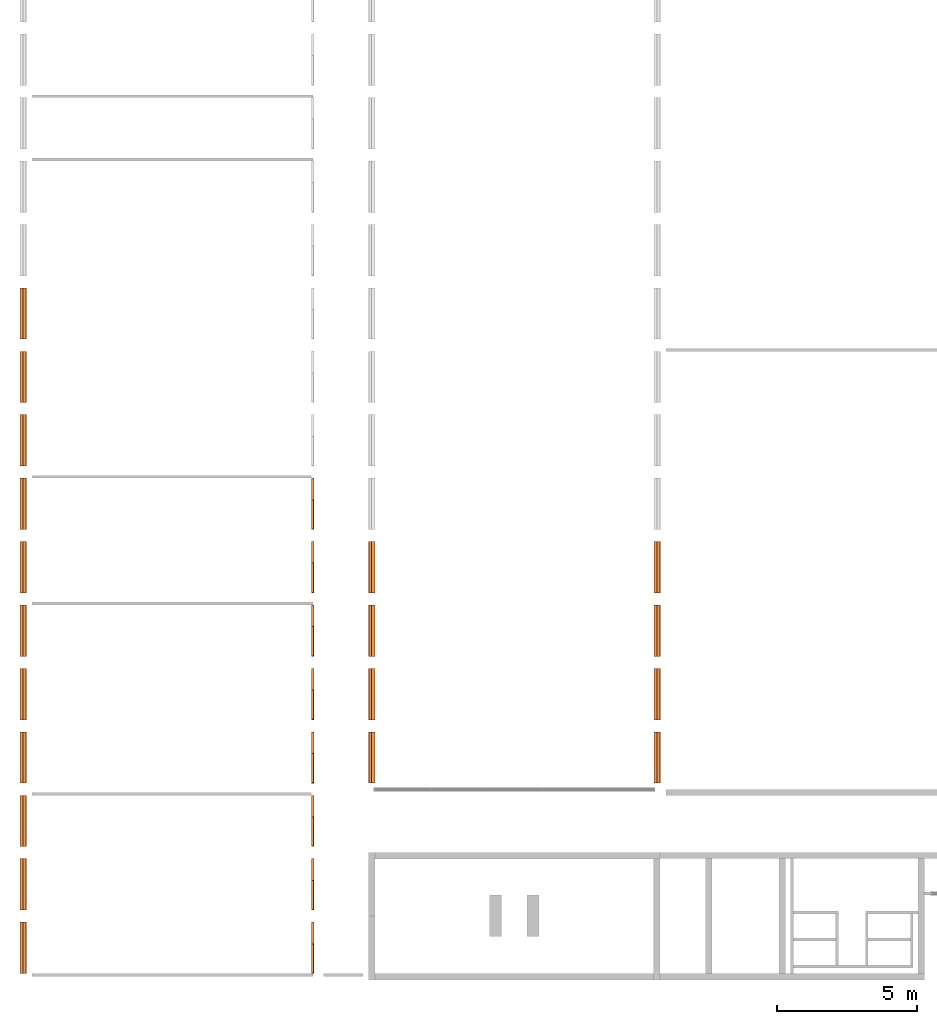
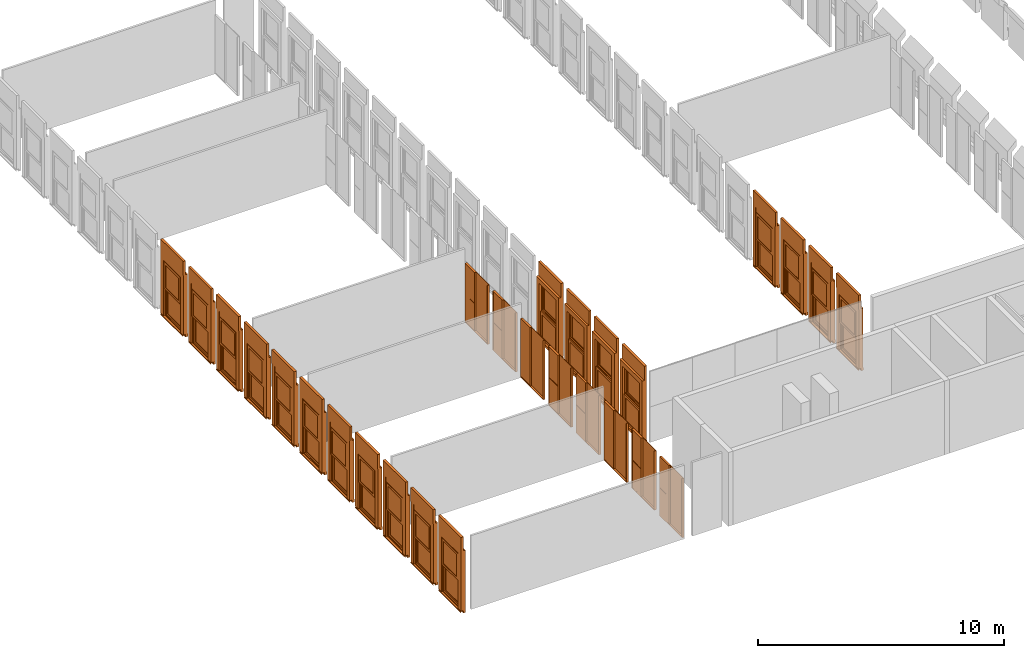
# One storey, part 9 of 16: 27 proxies.
"""IFC2X3 building model written with IfcOpenShell, lengths in millimetres."""

from ifc_helpers import new_model, entity, si_unit, converted_unit, derived_unit, direction, frame, frame_2d, origin, origin_2d_with_axis, place, context, subcontext, project, spatial, polyline, rectangle, outline, extrude, source, transform, mapped, material, material_list, type_object, type_shapes, element, save


model = new_model("IFC2X3")

# Units and contexts
model_context = context("Model", 3, precision=0.01, world=origin(), true_north=direction((6.12303176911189e-17, 1.0)))
body_context = subcontext(model_context, "Body", "Model", "MODEL_VIEW")
ifc_project = project(units=[si_unit("LENGTHUNIT", "METRE", prefix="MILLI"), si_unit("AREAUNIT", "SQUARE_METRE"), si_unit("VOLUMEUNIT", "CUBIC_METRE"), converted_unit("PLANEANGLEUNIT", "DEGREE", entity("IfcRatioMeasure", 0.0174532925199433), si_unit("PLANEANGLEUNIT", "RADIAN"), dimensions=[0, 0, 0, 0, 0, 0, 0]), si_unit("MASSUNIT", "GRAM", prefix="KILO"), derived_unit("MASSDENSITYUNIT", [(si_unit("MASSUNIT", "GRAM", prefix="KILO"), 1), (si_unit("LENGTHUNIT", "METRE"), -3)]), derived_unit("MOMENTOFINERTIAUNIT", [(si_unit("LENGTHUNIT", "METRE"), 4)]), si_unit("TIMEUNIT", "SECOND"), si_unit("FREQUENCYUNIT", "HERTZ"), si_unit("THERMODYNAMICTEMPERATUREUNIT", "DEGREE_CELSIUS"), derived_unit("THERMALTRANSMITTANCEUNIT", [(si_unit("MASSUNIT", "GRAM", prefix="KILO"), 1), (si_unit("THERMODYNAMICTEMPERATUREUNIT", "KELVIN"), -1), (si_unit("TIMEUNIT", "SECOND"), -3)]), derived_unit("VOLUMETRICFLOWRATEUNIT", [(si_unit("LENGTHUNIT", "METRE"), 3), (si_unit("TIMEUNIT", "SECOND"), -1)]), si_unit("ELECTRICCURRENTUNIT", "AMPERE"), si_unit("ELECTRICVOLTAGEUNIT", "VOLT"), si_unit("POWERUNIT", "WATT"), si_unit("FORCEUNIT", "NEWTON", prefix="KILO"), si_unit("ILLUMINANCEUNIT", "LUX"), si_unit("LUMINOUSFLUXUNIT", "LUMEN"), si_unit("LUMINOUSINTENSITYUNIT", "CANDELA"), derived_unit("USERDEFINED", [(si_unit("MASSUNIT", "GRAM", prefix="KILO"), -1), (si_unit("LENGTHUNIT", "METRE"), -2), (si_unit("TIMEUNIT", "SECOND"), 3), (si_unit("LUMINOUSFLUXUNIT", "LUMEN"), 1)]), derived_unit("LINEARVELOCITYUNIT", [(si_unit("LENGTHUNIT", "METRE"), 1), (si_unit("TIMEUNIT", "SECOND"), -1)]), si_unit("PRESSUREUNIT", "PASCAL"), derived_unit("USERDEFINED", [(si_unit("LENGTHUNIT", "METRE"), -2), (si_unit("MASSUNIT", "GRAM", prefix="KILO"), 1), (si_unit("TIMEUNIT", "SECOND"), -2)]), derived_unit("LINEARFORCEUNIT", [(si_unit("MASSUNIT", "GRAM", prefix="KILO"), 1), (si_unit("LENGTHUNIT", "METRE"), 1), (si_unit("TIMEUNIT", "SECOND"), -2), (si_unit("LENGTHUNIT", "METRE"), -1)]), derived_unit("PLANARFORCEUNIT", [(si_unit("MASSUNIT", "GRAM", prefix="KILO"), 1), (si_unit("LENGTHUNIT", "METRE"), 1), (si_unit("TIMEUNIT", "SECOND"), -2), (si_unit("LENGTHUNIT", "METRE"), -2)])], contexts=[model_context])

# Site, building, storey
site_placement = place(None, frame((10627.5135316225, 21939.0796949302, 0.0)))
site = spatial("IfcSite", under=ifc_project, at=site_placement, Name="Default", CompositionType="ELEMENT")
building_placement = place(site_placement, origin())
building = spatial("IfcBuilding", under=site, at=building_placement, CompositionType="ELEMENT")
storey_placement = place(building_placement, frame((0.0, 0.0, 3660.0)))
storey = spatial("IfcBuildingStorey", under=building, at=storey_placement, Name="R+1", CompositionType="ELEMENT", Elevation=3660.0)

# Proxies
ifc_material_1 = material(Name="PVC, Flexible")
ifc_material_2 = material(Name="Glass")
ifc_material_list_1 = material_list([ifc_material_1, ifc_material_2])
building_element_proxy_type_1 = type_object("IfcBuildingElementProxyType", Name="FENETRE.dwg:Fenetre ext 296+70", PredefinedType="NOTDEFINED", material=ifc_material_1)
shared_shape_1 = source(origin(), body_context, "Body", "SweptSolid", [
    extrude(rectangle(XDim=1829.99999999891, YDim=112.500043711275, at=origin_2d_with_axis()), frame((-10.4189092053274, 56.2500218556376, 2960.0), z_axis=(0.0, 0.0, 1.0), x_axis=(-1.0, 0.0, 0.0)), (0.0, 0.0, 1.0), 700.0),
    extrude(outline(polyline([(-68.5678005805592, -14.3879872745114), (-72.4883397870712, -33.9999574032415), (-67.5853472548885, -34.9800922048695), (-63.9024543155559, -16.5569155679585), (44.3087537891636, -16.5569155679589), (54.1101018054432, 32.4730097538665), (40.6268723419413, 35.1683804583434), (40.1368049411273, 32.7168841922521), (51.168538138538, 30.5115808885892), (42.1928709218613, -14.3879872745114), (-68.5678005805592, -14.3879872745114)])), frame((-925.418909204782, 66.917049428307, -47.5499763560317), z_axis=(-1.0, 0.0, 0.0), x_axis=(0.0, 0.980598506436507, -0.196026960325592)), (0.0, 0.0, -1.0), 1829.99999999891),
    extrude(outline(polyline([(-64.667066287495, -56.2500218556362), (66.1666874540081, -56.2500218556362), (66.1666874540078, 56.2500218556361), (-67.6663086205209, 56.2500218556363), (-64.667066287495, -56.2500218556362)])), frame((-925.418909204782, -56.2500218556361, -63.833312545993), z_axis=(1.0, 0.0, 0.0), x_axis=(0.0, 0.0, -1.0)), (0.0, 0.0, 1.0), 1829.99999999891),
    extrude(outline(polyline([(-55.5555555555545, 97.0007159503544), (-55.5555555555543, -5.85738417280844), (-55.5555555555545, -95.357341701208), (-45.5555555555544, -95.3573417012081), (-45.5555555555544, -105.357341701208), (174.444444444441, -105.357341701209), (174.444444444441, 106.642659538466), (-45.5555555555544, 106.642659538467), (-45.5555555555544, 97.0007159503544), (-55.5555555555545, 97.0007159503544)])), frame((849.025535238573, 5.85738417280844, 0.0), z_axis=(0.0, 0.0, -1.0), x_axis=(-1.0, 0.0, 0.0)), (0.0, 0.0, -1.0), 2960.0),
    extrude(rectangle(XDim=199.499957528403, YDim=1369.99999999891, at=origin_2d_with_axis()), frame((-10.4189092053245, 0.250021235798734, 2730.0), z_axis=(0.0, 0.0, 1.0), x_axis=(0.0, 1.0, 0.0)), (0.0, 0.0, 1.0), 230.000000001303),
    extrude(outline(polyline([(-97.0007159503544, -55.5555555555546), (5.85738417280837, -55.5555555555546), (95.357341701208, -55.5555555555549), (95.357341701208, -45.5555555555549), (105.357341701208, -45.5555555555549), (105.357341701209, 174.44444444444), (-106.642659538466, 174.444444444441), (-106.642659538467, -45.5555555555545), (-97.0007159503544, -45.5555555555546), (-97.0007159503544, -55.5555555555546)])), frame((-869.863353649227, 5.85738417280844, 0.0), z_axis=(0.0, 0.0, 1.0), x_axis=(0.0, -1.0, 0.0)), (0.0, 0.0, 1.0), 2960.0),
    extrude(rectangle(XDim=1.0, YDim=1079.99999999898, at=origin_2d_with_axis()), frame((-10.4189092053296, -19.5, 130.0), z_axis=(0.0, 0.0, 1.0), x_axis=(0.0, 1.0, 0.0)), (0.0, 0.0, 1.0), 1120.00000000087),
    extrude(rectangle(XDim=1.0, YDim=1079.99999999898, at=frame_2d((-4.21884749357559e-15, 0.0), x_axis=(1.0, 0.0))), frame((-10.4189092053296, -30.5, 130.0), z_axis=(0.0, 0.0, 1.0), x_axis=(0.0, 1.0, 0.0)), (0.0, 0.0, 1.0), 1120.00000000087),
    extrude(rectangle(XDim=1.0, YDim=1079.99999999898, at=frame_2d((-4.21884749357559e-15, 0.0), x_axis=(1.0, 0.0))), frame((-10.4189092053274, 69.5, 1465.0), z_axis=(0.0, 0.0, 1.0), x_axis=(0.0, 1.0, 0.0)), (0.0, 0.0, 1.0), 1120.0),
    extrude(rectangle(XDim=0.999999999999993, YDim=1079.99999999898, at=frame_2d((-8.46545056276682e-15, 0.0), x_axis=(1.0, 0.0))), frame((-10.4189092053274, 80.5, 1465.0), z_axis=(0.0, 0.0, 1.0), x_axis=(0.0, 1.0, 0.0)), (0.0, 0.0, 1.0), 1120.00000000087),
    extrude(outline(polyline([(-685.0, -1365.0), (0.0, -1365.0), (685.0, -1365.0), (685.0, 1365.0), (0.0, 1365.0), (-685.0, 1365.0), (-685.0, -1365.0)]), holes=[polyline([(-640.0, -1320.0), (-640.0, -45.0), (0.0, -45.0), (640.0, -45.0), (640.0, -1320.0), (0.0, -1320.0), (-640.0, -1320.0)]), polyline([(-640.0, 40.0), (-640.0, 1315.0), (0.0, 1315.0), (640.0, 1315.0), (640.0, 40.0), (0.0, 40.0), (-640.0, 40.0)])]), frame((-10.4189092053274, 0.0, 1365.0), z_axis=(0.0, 1.0, 0.0), x_axis=(1.0, 0.0, 0.0)), (0.0, 0.0, 1.0), 50.0),
    extrude(outline(polyline([(-655.0, -667.500000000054), (655.0, -667.500000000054), (655.0, 667.500000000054), (-655.0, 667.500000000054), (-655.0, -667.500000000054)]), holes=[polyline([(-540.0, 552.500000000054), (540.0, 552.500000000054), (540.0, -567.500000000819), (-540.0, -567.500000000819), (-540.0, 552.500000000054)])]), frame((-10.4189092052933, -50.0, 697.500000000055), z_axis=(0.0, 1.0, 0.0), x_axis=(-1.0, 0.0, 0.0)), (0.0, 0.0, 1.0), 50.0),
    extrude(outline(polyline([(-655.0, -667.500000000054), (655.0, -667.500000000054), (655.0, 667.500000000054), (-655.0, 667.500000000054), (-655.0, -667.500000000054)]), holes=[polyline([(-540.0, 552.500000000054), (540.0, 552.500000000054), (540.0, -567.500000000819), (-540.0, -567.500000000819), (-540.0, 552.500000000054)])]), frame((-10.4189092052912, 50.0, 2032.50000000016), z_axis=(0.0, 1.0, 0.0), x_axis=(-1.0, 0.0, 0.0)), (0.0, 0.0, 1.0), 50.0),
])
type_shapes(building_element_proxy_type_1, [shared_shape_1])
proxy_1_placement = place(storey_placement, frame((-10728.9017825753, 1801.33921427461, 0.0), z_axis=(0.0, 0.0, 1.0), x_axis=(0.0, 1.0, 0.0)))
element("IfcBuildingElementProxy", 1, at=proxy_1_placement, inside=storey, type_object=building_element_proxy_type_1, material=ifc_material_list_1, Name="FENETRE.dwg:Fenetre ext 296+70", ObjectType="FENETRE.dwg:Fenetre ext 296+70", context=body_context, shape_type="MappedRepresentation", body=[
    mapped(shared_shape_1, transform((0.0, 0.0, 0.0), scale=1.0)),
])
ifc_material_list_2 = material_list([ifc_material_1, ifc_material_2])
proxy_2_placement = place(storey_placement, frame((-10728.9017825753, -458.660785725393, 0.0), z_axis=(0.0, 0.0, 1.0), x_axis=(0.0, 1.0, 0.0)))
element("IfcBuildingElementProxy", 2, at=proxy_2_placement, inside=storey, type_object=building_element_proxy_type_1, material=ifc_material_list_2, Name="FENETRE.dwg:Fenetre ext 296+70", ObjectType="FENETRE.dwg:Fenetre ext 296+70", context=body_context, shape_type="MappedRepresentation", body=[
    mapped(shared_shape_1, transform((0.0, 0.0, 0.0), scale=1.0)),
])
ifc_material_list_3 = material_list([ifc_material_1, ifc_material_2])
proxy_3_placement = place(storey_placement, frame((-10728.9017825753, -2718.66078572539, 0.0), z_axis=(0.0, 0.0, 1.0), x_axis=(0.0, 1.0, 0.0)))
element("IfcBuildingElementProxy", 3, at=proxy_3_placement, inside=storey, type_object=building_element_proxy_type_1, material=ifc_material_list_3, Name="FENETRE.dwg:Fenetre ext 296+70", ObjectType="FENETRE.dwg:Fenetre ext 296+70", context=body_context, shape_type="MappedRepresentation", body=[
    mapped(shared_shape_1, transform((0.0, 0.0, 0.0), scale=1.0)),
])
ifc_material_list_4 = material_list([ifc_material_1, ifc_material_2])
proxy_4_placement = place(storey_placement, frame((-10728.9017825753, -4978.6607857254, 0.0), z_axis=(0.0, 0.0, 1.0), x_axis=(0.0, 1.0, 0.0)))
element("IfcBuildingElementProxy", 4, at=proxy_4_placement, inside=storey, type_object=building_element_proxy_type_1, material=ifc_material_list_4, Name="FENETRE.dwg:Fenetre ext 296+70", ObjectType="FENETRE.dwg:Fenetre ext 296+70", context=body_context, shape_type="MappedRepresentation", body=[
    mapped(shared_shape_1, transform((0.0, 0.0, 0.0), scale=1.0)),
])
ifc_material_list_5 = material_list([ifc_material_1, ifc_material_2])
proxy_5_placement = place(storey_placement, frame((-10728.9017825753, -7238.6607857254, 0.0), z_axis=(0.0, 0.0, 1.0), x_axis=(0.0, 1.0, 0.0)))
element("IfcBuildingElementProxy", 5, at=proxy_5_placement, inside=storey, type_object=building_element_proxy_type_1, material=ifc_material_list_5, Name="FENETRE.dwg:Fenetre ext 296+70", ObjectType="FENETRE.dwg:Fenetre ext 296+70", context=body_context, shape_type="MappedRepresentation", body=[
    mapped(shared_shape_1, transform((0.0, 0.0, 0.0), scale=1.0)),
])
ifc_material_list_6 = material_list([ifc_material_1, ifc_material_2])
proxy_6_placement = place(storey_placement, frame((-10728.9017825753, -9498.6607857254, 0.0), z_axis=(0.0, 0.0, 1.0), x_axis=(0.0, 1.0, 0.0)))
element("IfcBuildingElementProxy", 6, at=proxy_6_placement, inside=storey, type_object=building_element_proxy_type_1, material=ifc_material_list_6, Name="FENETRE.dwg:Fenetre ext 296+70", ObjectType="FENETRE.dwg:Fenetre ext 296+70", context=body_context, shape_type="MappedRepresentation", body=[
    mapped(shared_shape_1, transform((0.0, 0.0, 0.0), scale=1.0)),
])
ifc_material_list_7 = material_list([ifc_material_1, ifc_material_2])
proxy_7_placement = place(storey_placement, frame((-10728.9017825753, -11758.6607857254, 0.0), z_axis=(0.0, 0.0, 1.0), x_axis=(0.0, 1.0, 0.0)))
element("IfcBuildingElementProxy", 7, at=proxy_7_placement, inside=storey, type_object=building_element_proxy_type_1, material=ifc_material_list_7, Name="FENETRE.dwg:Fenetre ext 296+70", ObjectType="FENETRE.dwg:Fenetre ext 296+70", context=body_context, shape_type="MappedRepresentation", body=[
    mapped(shared_shape_1, transform((0.0, 0.0, 0.0), scale=1.0)),
])
ifc_material_list_8 = material_list([ifc_material_1, ifc_material_2])
proxy_8_placement = place(storey_placement, frame((-10728.9017825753, -14018.6607857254, 0.0), z_axis=(0.0, 0.0, 1.0), x_axis=(0.0, 1.0, 0.0)))
element("IfcBuildingElementProxy", 8, at=proxy_8_placement, inside=storey, type_object=building_element_proxy_type_1, material=ifc_material_list_8, Name="FENETRE.dwg:Fenetre ext 296+70", ObjectType="FENETRE.dwg:Fenetre ext 296+70", context=body_context, shape_type="MappedRepresentation", body=[
    mapped(shared_shape_1, transform((0.0, 0.0, 0.0), scale=1.0)),
])
ifc_material_list_9 = material_list([ifc_material_1, ifc_material_2])
proxy_9_placement = place(storey_placement, frame((-10728.9017825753, -16278.6607857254, 0.0), z_axis=(0.0, 0.0, 1.0), x_axis=(0.0, 1.0, 0.0)))
element("IfcBuildingElementProxy", 9, at=proxy_9_placement, inside=storey, type_object=building_element_proxy_type_1, material=ifc_material_list_9, Name="FENETRE.dwg:Fenetre ext 296+70", ObjectType="FENETRE.dwg:Fenetre ext 296+70", context=body_context, shape_type="MappedRepresentation", body=[
    mapped(shared_shape_1, transform((0.0, 0.0, 0.0), scale=1.0)),
])
ifc_material_list_10 = material_list([ifc_material_1, ifc_material_2])
proxy_10_placement = place(storey_placement, frame((-10728.9017825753, -18538.6607857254, 0.0), z_axis=(0.0, 0.0, 1.0), x_axis=(0.0, 1.0, 0.0)))
element("IfcBuildingElementProxy", 10, at=proxy_10_placement, inside=storey, type_object=building_element_proxy_type_1, material=ifc_material_list_10, Name="FENETRE.dwg:Fenetre ext 296+70", ObjectType="FENETRE.dwg:Fenetre ext 296+70", context=body_context, shape_type="MappedRepresentation", body=[
    mapped(shared_shape_1, transform((0.0, 0.0, 0.0), scale=1.0)),
])
ifc_material_list_11 = material_list([ifc_material_1, ifc_material_2])
proxy_11_placement = place(storey_placement, frame((-10728.9017825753, -20798.6607857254, 0.0), z_axis=(0.0, 0.0, 1.0), x_axis=(0.0, 1.0, 0.0)))
element("IfcBuildingElementProxy", 11, at=proxy_11_placement, inside=storey, type_object=building_element_proxy_type_1, material=ifc_material_list_11, Name="FENETRE.dwg:Fenetre ext 296+70", ObjectType="FENETRE.dwg:Fenetre ext 296+70", context=body_context, shape_type="MappedRepresentation", body=[
    mapped(shared_shape_1, transform((0.0, 0.0, 0.0), scale=1.0)),
])
ifc_material_list_12 = material_list([ifc_material_1, ifc_material_2])
proxy_12_placement = place(storey_placement, frame((11860.9034578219, -7238.66078572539, 0.0), z_axis=(0.0, 0.0, 1.0), x_axis=(0.0, 1.0, 0.0)))
element("IfcBuildingElementProxy", 12, at=proxy_12_placement, inside=storey, type_object=building_element_proxy_type_1, material=ifc_material_list_12, Name="FENETRE.dwg:Fenetre ext 296+70", ObjectType="FENETRE.dwg:Fenetre ext 296+70", context=body_context, shape_type="MappedRepresentation", body=[
    mapped(shared_shape_1, transform((0.0, 0.0, 0.0), scale=1.0)),
])
ifc_material_list_13 = material_list([ifc_material_1, ifc_material_2])
proxy_13_placement = place(storey_placement, frame((11860.9034578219, -9498.66078572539, 0.0), z_axis=(0.0, 0.0, 1.0), x_axis=(0.0, 1.0, 0.0)))
element("IfcBuildingElementProxy", 13, at=proxy_13_placement, inside=storey, type_object=building_element_proxy_type_1, material=ifc_material_list_13, Name="FENETRE.dwg:Fenetre ext 296+70", ObjectType="FENETRE.dwg:Fenetre ext 296+70", context=body_context, shape_type="MappedRepresentation", body=[
    mapped(shared_shape_1, transform((0.0, 0.0, 0.0), scale=1.0)),
])
ifc_material_list_14 = material_list([ifc_material_1, ifc_material_2])
proxy_14_placement = place(storey_placement, frame((11860.9034578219, -11758.6607857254, 0.0), z_axis=(0.0, 0.0, 1.0), x_axis=(0.0, 1.0, 0.0)))
element("IfcBuildingElementProxy", 14, at=proxy_14_placement, inside=storey, type_object=building_element_proxy_type_1, material=ifc_material_list_14, Name="FENETRE.dwg:Fenetre ext 296+70", ObjectType="FENETRE.dwg:Fenetre ext 296+70", context=body_context, shape_type="MappedRepresentation", body=[
    mapped(shared_shape_1, transform((0.0, 0.0, 0.0), scale=1.0)),
])
ifc_material_list_15 = material_list([ifc_material_1, ifc_material_2])
proxy_15_placement = place(storey_placement, frame((11860.9034578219, -14018.6607857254, 0.0), z_axis=(0.0, 0.0, 1.0), x_axis=(0.0, 1.0, 0.0)))
element("IfcBuildingElementProxy", 15, at=proxy_15_placement, inside=storey, type_object=building_element_proxy_type_1, material=ifc_material_list_15, Name="FENETRE.dwg:Fenetre ext 296+70", ObjectType="FENETRE.dwg:Fenetre ext 296+70", context=body_context, shape_type="MappedRepresentation", body=[
    mapped(shared_shape_1, transform((0.0, 0.0, 0.0), scale=1.0)),
])
ifc_material_list_16 = material_list([ifc_material_1, ifc_material_2])
building_element_proxy_type_2 = type_object("IfcBuildingElementProxyType", Name="FENETRE.dwg:Fenetre ext 296+70", PredefinedType="NOTDEFINED", material=ifc_material_1)
shared_shape_2 = source(origin(), body_context, "Body", "SweptSolid", [
    extrude(rectangle(XDim=112.500043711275, YDim=1829.99999999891, at=origin_2d_with_axis()), frame((-10.4189092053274, -56.2500218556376, 2960.0), z_axis=(0.0, 0.0, 1.0), x_axis=(0.0, 1.0, 0.0)), (0.0, 0.0, 1.0), 700.0),
    extrude(outline(polyline([(27.5499763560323, -64.4170494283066), (47.5499763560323, -64.4170494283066), (47.5499763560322, -59.4170494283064), (28.7622905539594, -59.4170494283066), (7.54997635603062, 46.6946996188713), (-42.4500236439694, 46.6946996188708), (-42.4500236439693, 32.9446996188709), (-39.9500236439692, 32.9446996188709), (-39.9500236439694, 44.1946996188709), (5.83789859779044, 44.1946996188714), (27.5499763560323, -64.4170494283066)])), frame((-925.418909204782, -66.917049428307, -47.5499763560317), z_axis=(1.0, 0.0, 0.0), x_axis=(0.0, 0.0, 1.0)), (0.0, 0.0, 1.0), 1829.99999999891),
    extrude(outline(polyline([(-54.506636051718, -66.1431859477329), (58.0333803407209, -66.1431859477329), (54.4666704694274, 67.6422744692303), (-57.9934147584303, 64.6440974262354), (-54.506636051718, -66.1431859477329)])), frame((-925.418909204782, 56.2500218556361, -63.833312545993), z_axis=(1.0, 0.0, 0.0), x_axis=(0.0, -0.999644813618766, 0.0266504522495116)), (0.0, 0.0, 1.0), 1829.99999999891),
    extrude(outline(polyline([(-97.0007159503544, -55.5555555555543), (5.85738417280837, -55.5555555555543), (95.357341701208, -55.5555555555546), (95.357341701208, -45.5555555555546), (105.357341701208, -45.5555555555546), (105.357341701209, 174.444444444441), (-106.642659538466, 174.444444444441), (-106.642659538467, -45.5555555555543), (-97.0007159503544, -45.5555555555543), (-97.0007159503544, -55.5555555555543)])), frame((849.025535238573, -5.85738417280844, 0.0), z_axis=(0.0, 0.0, 1.0), x_axis=(0.0, 1.0, 0.0)), (0.0, 0.0, 1.0), 2960.0),
    extrude(rectangle(XDim=1369.99999999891, YDim=199.499957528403, at=origin_2d_with_axis()), frame((-10.4189092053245, -0.250021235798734, 2730.0), z_axis=(0.0, 0.0, 1.0), x_axis=(-1.0, 0.0, 0.0)), (0.0, 0.0, 1.0), 230.000000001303),
    extrude(outline(polyline([(-55.5555555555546, 97.0007159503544), (-55.5555555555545, -5.85738417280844), (-55.5555555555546, -95.357341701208), (-45.5555555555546, -95.3573417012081), (-45.5555555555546, -105.357341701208), (174.444444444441, -105.357341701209), (174.444444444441, 106.642659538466), (-45.5555555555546, 106.642659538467), (-45.5555555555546, 97.0007159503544), (-55.5555555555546, 97.0007159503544)])), frame((-869.863353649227, -5.85738417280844, 0.0), z_axis=(0.0, 0.0, -1.0), x_axis=(1.0, 0.0, 0.0)), (0.0, 0.0, -1.0), 2960.0),
    extrude(rectangle(XDim=1079.99999999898, YDim=1.0, at=origin_2d_with_axis()), frame((-10.4189092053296, 19.5, 130.0), z_axis=(0.0, 0.0, 1.0), x_axis=(-1.0, 0.0, 0.0)), (0.0, 0.0, 1.0), 1120.00000000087),
    extrude(rectangle(XDim=1079.99999999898, YDim=1.0, at=origin_2d_with_axis()), frame((-10.4189092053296, 30.5, 130.0), z_axis=(0.0, 0.0, 1.0), x_axis=(-1.0, 0.0, 0.0)), (0.0, 0.0, 1.0), 1120.00000000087),
    extrude(rectangle(XDim=1079.99999999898, YDim=1.0, at=frame_2d((0.0, 4.21884749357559e-15), x_axis=(1.0, 0.0))), frame((-10.4189092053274, -69.5, 1465.0), z_axis=(0.0, 0.0, 1.0), x_axis=(-1.0, 0.0, 0.0)), (0.0, 0.0, 1.0), 1120.0),
    extrude(rectangle(XDim=1079.99999999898, YDim=0.999999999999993, at=frame_2d((0.0, -8.46545056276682e-15), x_axis=(1.0, 0.0))), frame((-10.4189092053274, -80.5, 1465.0), z_axis=(0.0, 0.0, 1.0), x_axis=(-1.0, 0.0, 0.0)), (0.0, 0.0, 1.0), 1120.00000000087),
    extrude(outline(polyline([(-685.0, -1365.0), (0.0, -1365.0), (685.0, -1365.0), (685.0, 1365.0), (0.0, 1365.0), (-685.0, 1365.0), (-685.0, -1365.0)]), holes=[polyline([(-640.0, -1320.0), (-640.0, -45.0), (0.0, -45.0), (640.0, -45.0), (640.0, -1320.0), (0.0, -1320.0), (-640.0, -1320.0)]), polyline([(-640.0, 40.0), (-640.0, 1315.0), (0.0, 1315.0), (640.0, 1315.0), (640.0, 40.0), (0.0, 40.0), (-640.0, 40.0)])]), frame((-10.4189092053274, -50.0, 1365.0), z_axis=(0.0, 1.0, 0.0), x_axis=(1.0, 0.0, 0.0)), (0.0, 0.0, 1.0), 50.0),
    extrude(outline(polyline([(-655.0, -667.500000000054), (655.0, -667.500000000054), (655.0, 667.500000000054), (-655.0, 667.500000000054), (-655.0, -667.500000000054)]), holes=[polyline([(-540.0, 552.500000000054), (540.0, 552.500000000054), (540.0, -567.500000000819), (-540.0, -567.500000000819), (-540.0, 552.500000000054)])]), frame((-10.4189092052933, 0.0, 697.500000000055), z_axis=(0.0, 1.0, 0.0), x_axis=(-1.0, 0.0, 0.0)), (0.0, 0.0, 1.0), 50.0),
    extrude(outline(polyline([(-655.0, -667.500000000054), (655.0, -667.500000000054), (655.0, 667.500000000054), (-655.0, 667.500000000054), (-655.0, -667.500000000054)]), holes=[polyline([(-540.0, 552.500000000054), (540.0, 552.500000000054), (540.0, -567.500000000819), (-540.0, -567.500000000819), (-540.0, 552.500000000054)])]), frame((-10.4189092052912, -100.0, 2032.50000000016), z_axis=(0.0, 1.0, 0.0), x_axis=(-1.0, 0.0, 0.0)), (0.0, 0.0, 1.0), 50.0),
])
type_shapes(building_element_proxy_type_2, [shared_shape_2])
proxy_16_placement = place(storey_placement, frame((1684.98642466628, -7238.66078572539, 0.0), z_axis=(0.0, 0.0, 1.0), x_axis=(0.0, 1.0, 0.0)))
element("IfcBuildingElementProxy", 16, at=proxy_16_placement, inside=storey, type_object=building_element_proxy_type_2, material=ifc_material_list_16, Name="FENETRE.dwg:Fenetre ext 296+70", ObjectType="FENETRE.dwg:Fenetre ext 296+70", context=body_context, shape_type="MappedRepresentation", body=[
    mapped(shared_shape_2, transform((0.0, 0.0, 0.0), scale=1.0)),
])
ifc_material_list_17 = material_list([ifc_material_1, ifc_material_2])
proxy_17_placement = place(storey_placement, frame((1684.98642466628, -9498.66078572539, 0.0), z_axis=(0.0, 0.0, 1.0), x_axis=(0.0, 1.0, 0.0)))
element("IfcBuildingElementProxy", 17, at=proxy_17_placement, inside=storey, type_object=building_element_proxy_type_2, material=ifc_material_list_17, Name="FENETRE.dwg:Fenetre ext 296+70", ObjectType="FENETRE.dwg:Fenetre ext 296+70", context=body_context, shape_type="MappedRepresentation", body=[
    mapped(shared_shape_2, transform((0.0, 0.0, 0.0), scale=1.0)),
])
ifc_material_list_18 = material_list([ifc_material_1, ifc_material_2])
proxy_18_placement = place(storey_placement, frame((1684.98642466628, -11758.6607857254, 0.0), z_axis=(0.0, 0.0, 1.0), x_axis=(0.0, 1.0, 0.0)))
element("IfcBuildingElementProxy", 18, at=proxy_18_placement, inside=storey, type_object=building_element_proxy_type_2, material=ifc_material_list_18, Name="FENETRE.dwg:Fenetre ext 296+70", ObjectType="FENETRE.dwg:Fenetre ext 296+70", context=body_context, shape_type="MappedRepresentation", body=[
    mapped(shared_shape_2, transform((0.0, 0.0, 0.0), scale=1.0)),
])
ifc_material_list_19 = material_list([ifc_material_1, ifc_material_2])
proxy_19_placement = place(storey_placement, frame((1684.98642466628, -14018.6607857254, 0.0), z_axis=(0.0, 0.0, 1.0), x_axis=(0.0, 1.0, 0.0)))
element("IfcBuildingElementProxy", 19, at=proxy_19_placement, inside=storey, type_object=building_element_proxy_type_2, material=ifc_material_list_19, Name="FENETRE.dwg:Fenetre ext 296+70", ObjectType="FENETRE.dwg:Fenetre ext 296+70", context=body_context, shape_type="MappedRepresentation", body=[
    mapped(shared_shape_2, transform((0.0, 0.0, 0.0), scale=1.0)),
])
ifc_material_3 = material(Name="Plywood, Sheathing")
ifc_material_list_20 = material_list([ifc_material_3, ifc_material_2])
building_element_proxy_type_3 = type_object("IfcBuildingElementProxyType", Name="Porte noire:Porte noire", PredefinedType="NOTDEFINED", material=ifc_material_3)
shared_shape_3 = source(origin(), body_context, "Body", "SweptSolid", [
    extrude(rectangle(XDim=100.0, YDim=23.0000000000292, at=origin_2d_with_axis()), frame((-950.918997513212, -50.0, 8.73189890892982), z_axis=(0.0, 0.0, 1.0), x_axis=(0.0, 1.0, 0.0)), (0.0, 0.0, 1.0), 2933.34951039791),
    extrude(rectangle(XDim=19.0, YDim=1038.0, at=frame_2d((7.99360577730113e-15, 0.0), x_axis=(1.0, 0.0))), frame((-420.418997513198, -87.5, 43.7318989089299), z_axis=(0.0, 0.0, 1.0), x_axis=(0.0, 1.0, 0.0)), (0.0, 0.0, 1.0), 2898.5),
    extrude(rectangle(XDim=100.0, YDim=1775.0, at=origin_2d_with_axis()), frame((-51.9189975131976, -50.0, 8.73189890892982), z_axis=(0.0, 0.0, 1.0), x_axis=(0.0, 1.0, 0.0)), (0.0, 0.0, 1.0), 35.0000000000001),
    extrude(rectangle(XDim=100.0, YDim=35.0000000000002, at=origin_2d_with_axis()), frame((853.081002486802, -50.0, 8.73189890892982), z_axis=(0.0, 0.0, 1.0), x_axis=(0.0, 1.0, 0.0)), (0.0, 0.0, 1.0), 2898.5),
    extrude(rectangle(XDim=100.0, YDim=740.0, at=origin_2d_with_axis()), frame((500.581002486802, -50.0, 2907.23189890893), z_axis=(0.0, 0.0, 1.0), x_axis=(0.0, 1.0, 0.0)), (0.0, 0.0, 1.0), 35.0000000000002),
    extrude(rectangle(XDim=100.0, YDim=31.9999999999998, at=origin_2d_with_axis()), frame((114.581002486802, -50.0, 43.7318989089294), z_axis=(0.0, 0.0, 1.0), x_axis=(0.0, 1.0, 0.0)), (0.0, 0.0, 1.0), 2898.5),
    extrude(rectangle(XDim=100.0, YDim=705.0, at=origin_2d_with_axis()), frame((483.081002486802, -50.0, 1343.73189890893), z_axis=(0.0, 0.0, 1.0), x_axis=(0.0, 1.0, 0.0)), (0.0, 0.0, 1.0), 55.0),
    extrude(outline(polyline([(-352.5, -650.0), (352.5, -650.0), (352.5, 650.0), (-352.5, 650.0), (-352.5, -650.0)]), holes=[polyline([(342.5, 640.0), (342.5, -640.0), (-342.5, -640.0), (-342.5, 640.0), (342.5, 640.0)])]), frame((483.081002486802, -80.0, 693.73189890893), z_axis=(0.0, 1.0, 0.0), x_axis=(1.0, 0.0, 0.0)), (0.0, 0.0, 1.0), 70.0),
    extrude(outline(polyline([(-754.25, -352.5), (754.25, -352.5), (754.25, 352.5), (-754.25, 352.5), (-754.25, -352.5)]), holes=[polyline([(744.25, 342.5), (744.25, -342.5), (-744.25, -342.5), (-744.25, 342.5), (744.25, 342.5)])]), frame((483.081002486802, -80.0, 2152.98189890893), z_axis=(0.0, 1.0, 0.0), x_axis=(0.0, 0.0, 1.0)), (0.0, 0.0, 1.0), 70.0),
    extrude(outline(polyline([(-640.0, -342.5), (640.0, -342.5), (640.0, 342.5), (-640.0, 342.5), (-640.0, -342.5)]), holes=[polyline([(630.0, 332.5), (630.0, -332.5), (-630.0, -332.5), (-630.0, 332.5), (630.0, 332.5)])]), frame((483.081002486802, -81.0, 693.731898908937), z_axis=(0.0, 1.0, 0.0), x_axis=(0.0, 0.0, 1.0)), (0.0, 0.0, 1.0), 3.99999999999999),
    extrude(outline(polyline([(-744.25, -342.5), (744.25, -342.5), (744.25, 342.5), (-744.25, 342.5), (-744.25, -342.5)]), holes=[polyline([(734.25, 332.5), (734.25, -332.5), (-734.25, -332.5), (-734.25, 332.5), (734.25, 332.5)])]), frame((483.081002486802, -81.0, 2152.98189890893), z_axis=(0.0, 1.0, 0.0), x_axis=(0.0, 0.0, 1.0)), (0.0, 0.0, 1.0), 3.99999999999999),
    extrude(outline(polyline([(-640.0, -342.5), (640.0, -342.5), (640.0, 342.5), (-640.0, 342.5), (-640.0, -342.5)]), holes=[polyline([(630.0, 332.5), (630.0, -332.5), (-630.0, -332.5), (-630.0, 332.5), (630.0, 332.5)])]), frame((483.081002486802, -15.0, 693.782575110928), z_axis=(0.0, 1.0, 0.0), x_axis=(0.0, 0.0, 1.0)), (0.0, 0.0, 1.0), 5.0),
    extrude(outline(polyline([(-744.25, -342.5), (744.25, -342.5), (744.25, 342.5), (-744.25, 342.5), (-744.25, -342.5)]), holes=[polyline([(734.25, 332.5), (734.25, -332.5), (-734.25, -332.5), (-734.25, 332.5), (734.25, 332.5)])]), frame((483.081002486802, -15.0, 2153.03257511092), z_axis=(0.0, 1.0, 0.0), x_axis=(0.0, 0.0, 1.0)), (0.0, 0.0, 1.0), 5.0),
    extrude(rectangle(XDim=2.0, YDim=665.0, at=frame_2d((8.43769498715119e-15, 0.0), x_axis=(1.0, 0.0))), frame((483.081002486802, -79.0, 1418.73189890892), z_axis=(0.0, 0.0, 1.0), x_axis=(0.0, 1.0, 0.0)), (0.0, 0.0, 1.0), 1468.50000000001),
    extrude(rectangle(XDim=2.0, YDim=665.0, at=frame_2d((8.43769498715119e-15, 0.0), x_axis=(1.0, 0.0))), frame((483.081002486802, -79.0, 63.7318989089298), z_axis=(0.0, 0.0, 1.0), x_axis=(0.0, 1.0, 0.0)), (0.0, 0.0, 1.0), 1260.0),
    extrude(rectangle(XDim=2.0, YDim=665.0, at=frame_2d((1.0547118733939e-15, 0.0), x_axis=(1.0, 0.0))), frame((483.081002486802, -13.0, 1418.78257511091), z_axis=(0.0, 0.0, 1.0), x_axis=(0.0, 1.0, 0.0)), (0.0, 0.0, 1.0), 1468.50000000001),
    extrude(rectangle(XDim=2.0, YDim=665.0, at=frame_2d((1.0547118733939e-15, 0.0), x_axis=(1.0, 0.0))), frame((483.081002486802, -13.0, 63.7825751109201), z_axis=(0.0, 0.0, 1.0), x_axis=(0.0, 1.0, 0.0)), (0.0, 0.0, 1.0), 1260.0),
])
type_shapes(building_element_proxy_type_3, [shared_shape_3])
proxy_20_placement = place(storey_placement, frame((-462.153535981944, -20762.660697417, 0.0), z_axis=(0.0, 0.0, 1.0), x_axis=(0.0, 1.0, 0.0)))
element("IfcBuildingElementProxy", 20, at=proxy_20_placement, inside=storey, type_object=building_element_proxy_type_3, material=ifc_material_list_20, Name="Porte noire:Porte noire", ObjectType="Porte noire:Porte noire", context=body_context, shape_type="MappedRepresentation", body=[
    mapped(shared_shape_3, transform((0.0, 0.0, 0.0), scale=1.0)),
])
ifc_material_list_21 = material_list([ifc_material_3, ifc_material_2])
proxy_21_placement = place(storey_placement, frame((-462.153535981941, -18502.660697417, 0.0), z_axis=(0.0, 0.0, 1.0), x_axis=(0.0, 1.0, 0.0)))
element("IfcBuildingElementProxy", 21, at=proxy_21_placement, inside=storey, type_object=building_element_proxy_type_3, material=ifc_material_list_21, Name="Porte noire:Porte noire", ObjectType="Porte noire:Porte noire", context=body_context, shape_type="MappedRepresentation", body=[
    mapped(shared_shape_3, transform((0.0, 0.0, 0.0), scale=1.0)),
])
ifc_material_list_22 = material_list([ifc_material_3, ifc_material_2])
proxy_22_placement = place(storey_placement, frame((-462.153535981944, -16242.660697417, 0.0), z_axis=(0.0, 0.0, 1.0), x_axis=(0.0, 1.0, 0.0)))
element("IfcBuildingElementProxy", 22, at=proxy_22_placement, inside=storey, type_object=building_element_proxy_type_3, material=ifc_material_list_22, Name="Porte noire:Porte noire", ObjectType="Porte noire:Porte noire", context=body_context, shape_type="MappedRepresentation", body=[
    mapped(shared_shape_3, transform((0.0, 0.0, 0.0), scale=1.0)),
])
ifc_material_list_23 = material_list([ifc_material_3, ifc_material_2])
proxy_23_placement = place(storey_placement, frame((-462.153535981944, -13982.660697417, 0.0), z_axis=(0.0, 0.0, 1.0), x_axis=(0.0, 1.0, 0.0)))
element("IfcBuildingElementProxy", 23, at=proxy_23_placement, inside=storey, type_object=building_element_proxy_type_3, material=ifc_material_list_23, Name="Porte noire:Porte noire", ObjectType="Porte noire:Porte noire", context=body_context, shape_type="MappedRepresentation", body=[
    mapped(shared_shape_3, transform((0.0, 0.0, 0.0), scale=1.0)),
])
ifc_material_list_24 = material_list([ifc_material_3, ifc_material_2])
proxy_24_placement = place(storey_placement, frame((-462.153535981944, -11722.660697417, 0.0), z_axis=(0.0, 0.0, 1.0), x_axis=(0.0, 1.0, 0.0)))
element("IfcBuildingElementProxy", 24, at=proxy_24_placement, inside=storey, type_object=building_element_proxy_type_3, material=ifc_material_list_24, Name="Porte noire:Porte noire", ObjectType="Porte noire:Porte noire", context=body_context, shape_type="MappedRepresentation", body=[
    mapped(shared_shape_3, transform((0.0, 0.0, 0.0), scale=1.0)),
])
ifc_material_list_25 = material_list([ifc_material_3, ifc_material_2])
proxy_25_placement = place(storey_placement, frame((-462.153535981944, -9462.660697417, 0.0), z_axis=(0.0, 0.0, 1.0), x_axis=(0.0, 1.0, 0.0)))
element("IfcBuildingElementProxy", 25, at=proxy_25_placement, inside=storey, type_object=building_element_proxy_type_3, material=ifc_material_list_25, Name="Porte noire:Porte noire", ObjectType="Porte noire:Porte noire", context=body_context, shape_type="MappedRepresentation", body=[
    mapped(shared_shape_3, transform((0.0, 0.0, 0.0), scale=1.0)),
])
ifc_material_list_26 = material_list([ifc_material_3, ifc_material_2])
proxy_26_placement = place(storey_placement, frame((-462.153535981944, -7202.660697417, 0.0), z_axis=(0.0, 0.0, 1.0), x_axis=(0.0, 1.0, 0.0)))
element("IfcBuildingElementProxy", 26, at=proxy_26_placement, inside=storey, type_object=building_element_proxy_type_3, material=ifc_material_list_26, Name="Porte noire:Porte noire", ObjectType="Porte noire:Porte noire", context=body_context, shape_type="MappedRepresentation", body=[
    mapped(shared_shape_3, transform((0.0, 0.0, 0.0), scale=1.0)),
])
ifc_material_list_27 = material_list([ifc_material_3, ifc_material_2])
proxy_27_placement = place(storey_placement, frame((-462.153535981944, -4942.660697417, 0.0), z_axis=(0.0, 0.0, 1.0), x_axis=(0.0, 1.0, 0.0)))
element("IfcBuildingElementProxy", 27, at=proxy_27_placement, inside=storey, type_object=building_element_proxy_type_3, material=ifc_material_list_27, Name="Porte noire:Porte noire", ObjectType="Porte noire:Porte noire", context=body_context, shape_type="MappedRepresentation", body=[
    mapped(shared_shape_3, transform((0.0, 0.0, 0.0), scale=1.0)),
])

save(model, "model.ifc")
